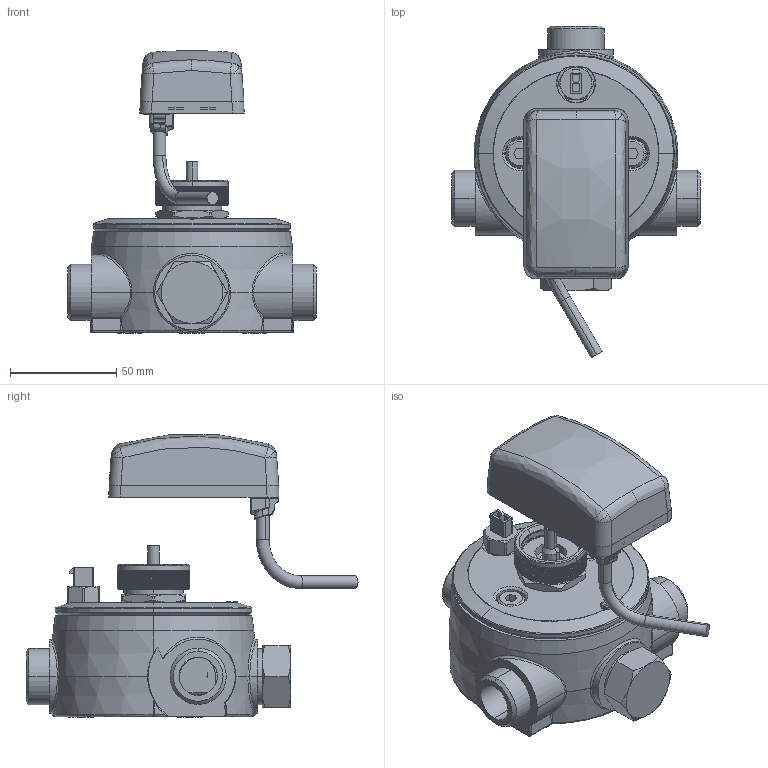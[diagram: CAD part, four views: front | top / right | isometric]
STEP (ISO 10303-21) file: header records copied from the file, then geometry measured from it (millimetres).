
FILE_DESCRIPTION (( 'STEP AP214' ), '1' );
FILE_NAME ('22TX91E37ELECV3 22TX92E37ELECV3.STEP', '2020-02-03T12:59:05', ( '' ), ( '' ), 'SwSTEP 2.0', 'SolidWorks 2017', '' );
FILE_SCHEMA (( 'AUTOMOTIVE_DESIGN' ));
Length unit declared in the file: millimetre
Products named in the file (30): 148831500104; 22018884; 22113409; 04082016_012; 22108267; 22018887; 028876700001_courb‚; 1589063_SUB_ASM; 1788016_asm_enveloppe; 1487128; 08082016_003; 1589063_ASM_enveloppe; 23010010_23010014; 22018969; 148702800002; 22113429 22113439 22113449 22113459 22113469_22113429; 22TX91E37EV3 22TX92E37EV3_Enveloppe; 22019082_enveloppe; 22090209_22108211PE; 22080240_Enveloppe; 22091020_22010446_22010446M_22010496M; 22016518; 22014884; 22108612; 22108237; 1589063_STRAIN_RELIEF; 22014508; 22TX91E37ELECV3 22TX92E37ELECV3; 04082016_011; 22012560
Assembly tree (33 placements, depth 6):
  22TX91E37ELECV3 22TX92E37ELECV3
    22TX91E37EV3 22TX92E37EV3_Enveloppe
      22090209_22108211PE
      22080240_Enveloppe
        22091020_22010446_22010446M_22010496M
        22113429 22113439 22113449 22113459 22113469_22113429
        22108612
        22108237
        22012560  x2
        22014884  x2
        22018969  x2
        22016518
        22014508
      22113409  x2
      22108267
      23010010_23010014
    22019082_enveloppe
      1788016_asm_enveloppe
        148702800002
        148831500104
        1589063_ASM_enveloppe
          1589063_SUB_ASM
            1589063_STRAIN_RELIEF
          028876700001_courb‚
        1487128
    22018884
      22018887
        04082016_011
        04082016_012
        08082016_003
Bounding box: 117 x 156.2 x 132.79 mm (x, y, z)
Volume: 240940.3 mm3; surface area: 140925.6 mm2
Topology: 24 solids, 24 shells, 1849 faces, 4611 edges, 2789 vertices
Faces by surface type: plane 657, cylinder 554, cone 209, bspline 204, torus 191, sphere 34
Entity records: 102311 total; most frequent: CARTESIAN_POINT 44657, ORIENTED_EDGE 12348, DIRECTION 10202, EDGE_CURVE 6174, AXIS2_PLACEMENT_3D 4008, VERTEX_POINT 3882, EDGE_LOOP 2530, ADVANCED_FACE 2405
